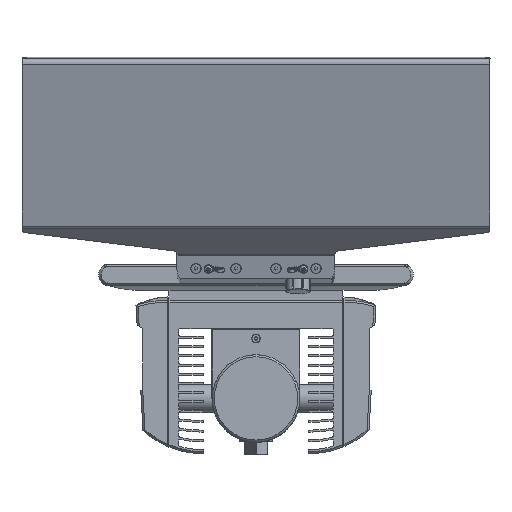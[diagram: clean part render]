
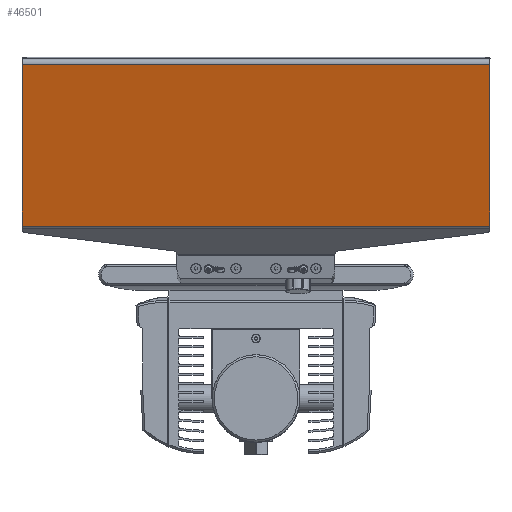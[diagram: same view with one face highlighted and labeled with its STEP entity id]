
A CAD part, front view. The second image highlights one B-rep face of the part: STEP entity #46501.
In plain terms, the highlighted planar face has unit normal (0, -0.966, -0.259).
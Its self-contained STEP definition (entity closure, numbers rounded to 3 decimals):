
#1100=LINE('',#67353,#5565);
#1101=LINE('',#67358,#5566);
#1103=LINE('',#67362,#5568);
#1104=LINE('',#67363,#5569);
#5565=VECTOR('',#54163,468.);
#5566=VECTOR('',#54170,167.167);
#5568=VECTOR('',#54174,167.167);
#5569=VECTOR('',#54175,468.);
#10610=PLANE('',#49264);
#12593=FACE_OUTER_BOUND('',#15227,.T.);
#15227=EDGE_LOOP('',(#31899,#31900,#31901,#31902));
#19947=VERTEX_POINT('',#67206);
#19950=VERTEX_POINT('',#67214);
#19985=VERTEX_POINT('',#67357);
#19986=VERTEX_POINT('',#67361);
#24657=EDGE_CURVE('',#19947,#19950,#1100,.T.);
#24658=EDGE_CURVE('',#19947,#19985,#1101,.T.);
#24660=EDGE_CURVE('',#19986,#19950,#1103,.T.);
#24661=EDGE_CURVE('',#19986,#19985,#1104,.T.);
#31899=ORIENTED_EDGE('',*,*,#24657,.T.);
#31900=ORIENTED_EDGE('',*,*,#24660,.F.);
#31901=ORIENTED_EDGE('',*,*,#24661,.T.);
#31902=ORIENTED_EDGE('',*,*,#24658,.F.);
#46501=ADVANCED_FACE('',(#12593),#10610,.T.);
#49264=AXIS2_PLACEMENT_3D('',#67360,#54172,#54173);
#54163=DIRECTION('',(1.,0.,0.));
#54170=DIRECTION('',(0.,-0.259,0.966));
#54172=DIRECTION('center_axis',(0.,-0.966,
-0.259));
#54173=DIRECTION('ref_axis',(0.,-0.259,0.966));
#54174=DIRECTION('',(0.,0.259,-0.966));
#54175=DIRECTION('',(-1.,0.,0.));
#67206=CARTESIAN_POINT('',(-234.,-192.35,51.377));
#67214=CARTESIAN_POINT('',(234.,-192.35,51.377));
#67353=CARTESIAN_POINT('',(-117.,-192.35,51.377));
#67357=CARTESIAN_POINT('',(-234.,-235.616,212.848));
#67358=CARTESIAN_POINT('',(-234.,-192.031,50.186));
#67360=CARTESIAN_POINT('Origin',(0.,-214.419,
133.739));
#67361=CARTESIAN_POINT('',(234.,-235.616,212.848));
#67362=CARTESIAN_POINT('',(234.,-236.807,217.292));
#67363=CARTESIAN_POINT('',(117.,-235.616,212.848));
